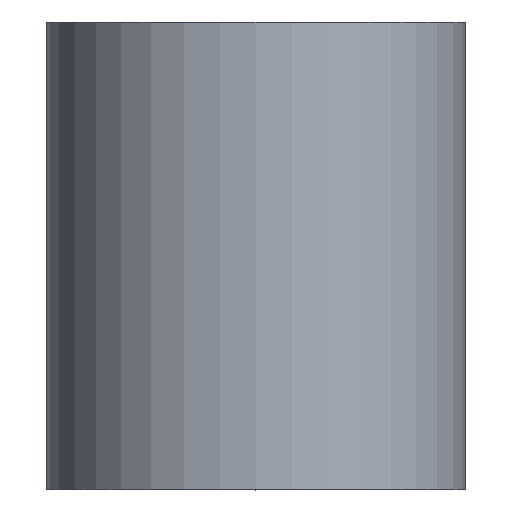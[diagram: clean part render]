
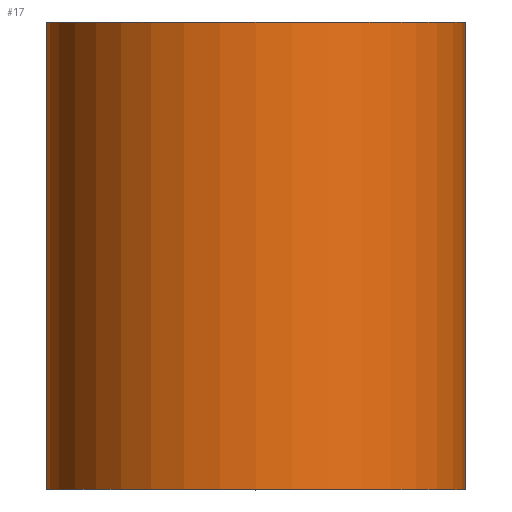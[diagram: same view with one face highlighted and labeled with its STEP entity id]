
A CAD part, top view. The second image highlights one B-rep face of the part: STEP entity #17.
In plain terms, the highlighted cylindrical face has radius 2.6 mm (diameter 5.2 mm), a full revolution.
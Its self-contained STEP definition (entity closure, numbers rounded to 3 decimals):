
#17 = ADVANCED_FACE('',(#18),#31,.T.);
#18 = FACE_BOUND('',#19,.T.);
#19 = EDGE_LOOP('',(#20,#54,#77,#104));
#20 = ORIENTED_EDGE('',*,*,#21,.F.);
#21 = EDGE_CURVE('',#22,#22,#24,.T.);
#22 = VERTEX_POINT('',#23);
#23 = CARTESIAN_POINT('',(2.6,-2.9,0.));
#24 = SURFACE_CURVE('',#25,(#30,#42),.PCURVE_S1.);
#25 = CIRCLE('',#26,2.6);
#26 = AXIS2_PLACEMENT_3D('',#27,#28,#29);
#27 = CARTESIAN_POINT('',(0.,-2.9,0.));
#28 = DIRECTION('',(0.,-1.,0.));
#29 = DIRECTION('',(1.,0.,0.));
#30 = PCURVE('',#31,#36);
#31 = CYLINDRICAL_SURFACE('',#32,2.6);
#32 = AXIS2_PLACEMENT_3D('',#33,#34,#35);
#33 = CARTESIAN_POINT('',(0.,2.9,0.));
#34 = DIRECTION('',(0.,-1.,0.));
#35 = DIRECTION('',(1.,0.,0.));
#36 = DEFINITIONAL_REPRESENTATION('',(#37),#41);
#37 = LINE('',#38,#39);
#38 = CARTESIAN_POINT('',(0.,5.8));
#39 = VECTOR('',#40,1.);
#40 = DIRECTION('',(1.,0.));
#41 = ( GEOMETRIC_REPRESENTATION_CONTEXT(2) 
PARAMETRIC_REPRESENTATION_CONTEXT() REPRESENTATION_CONTEXT('2D SPACE',''
  ) );
#42 = PCURVE('',#43,#48);
#43 = PLANE('',#44);
#44 = AXIS2_PLACEMENT_3D('',#45,#46,#47);
#45 = CARTESIAN_POINT('',(0.,-2.9,0.));
#46 = DIRECTION('',(0.,-1.,0.));
#47 = DIRECTION('',(1.,0.,0.));
#48 = DEFINITIONAL_REPRESENTATION('',(#49),#53);
#49 = CIRCLE('',#50,2.6);
#50 = AXIS2_PLACEMENT_2D('',#51,#52);
#51 = CARTESIAN_POINT('',(0.,0.));
#52 = DIRECTION('',(1.,0.));
#53 = ( GEOMETRIC_REPRESENTATION_CONTEXT(2) 
PARAMETRIC_REPRESENTATION_CONTEXT() REPRESENTATION_CONTEXT('2D SPACE',''
  ) );
#54 = ORIENTED_EDGE('',*,*,#55,.F.);
#55 = EDGE_CURVE('',#56,#22,#58,.T.);
#56 = VERTEX_POINT('',#57);
#57 = CARTESIAN_POINT('',(2.6,2.9,0.));
#58 = SEAM_CURVE('',#59,(#63,#70),.PCURVE_S1.);
#59 = LINE('',#60,#61);
#60 = CARTESIAN_POINT('',(2.6,2.9,0.));
#61 = VECTOR('',#62,1.);
#62 = DIRECTION('',(0.,-1.,0.));
#63 = PCURVE('',#31,#64);
#64 = DEFINITIONAL_REPRESENTATION('',(#65),#69);
#65 = LINE('',#66,#67);
#66 = CARTESIAN_POINT('',(6.283,-0.));
#67 = VECTOR('',#68,1.);
#68 = DIRECTION('',(0.,1.));
#69 = ( GEOMETRIC_REPRESENTATION_CONTEXT(2) 
PARAMETRIC_REPRESENTATION_CONTEXT() REPRESENTATION_CONTEXT('2D SPACE',''
  ) );
#70 = PCURVE('',#31,#71);
#71 = DEFINITIONAL_REPRESENTATION('',(#72),#76);
#72 = LINE('',#73,#74);
#73 = CARTESIAN_POINT('',(0.,-0.));
#74 = VECTOR('',#75,1.);
#75 = DIRECTION('',(0.,1.));
#76 = ( GEOMETRIC_REPRESENTATION_CONTEXT(2) 
PARAMETRIC_REPRESENTATION_CONTEXT() REPRESENTATION_CONTEXT('2D SPACE',''
  ) );
#77 = ORIENTED_EDGE('',*,*,#78,.T.);
#78 = EDGE_CURVE('',#56,#56,#79,.T.);
#79 = SURFACE_CURVE('',#80,(#85,#92),.PCURVE_S1.);
#80 = CIRCLE('',#81,2.6);
#81 = AXIS2_PLACEMENT_3D('',#82,#83,#84);
#82 = CARTESIAN_POINT('',(0.,2.9,0.));
#83 = DIRECTION('',(0.,-1.,0.));
#84 = DIRECTION('',(1.,0.,0.));
#85 = PCURVE('',#31,#86);
#86 = DEFINITIONAL_REPRESENTATION('',(#87),#91);
#87 = LINE('',#88,#89);
#88 = CARTESIAN_POINT('',(0.,0.));
#89 = VECTOR('',#90,1.);
#90 = DIRECTION('',(1.,0.));
#91 = ( GEOMETRIC_REPRESENTATION_CONTEXT(2) 
PARAMETRIC_REPRESENTATION_CONTEXT() REPRESENTATION_CONTEXT('2D SPACE',''
  ) );
#92 = PCURVE('',#93,#98);
#93 = PLANE('',#94);
#94 = AXIS2_PLACEMENT_3D('',#95,#96,#97);
#95 = CARTESIAN_POINT('',(0.,2.9,0.));
#96 = DIRECTION('',(0.,-1.,0.));
#97 = DIRECTION('',(1.,0.,0.));
#98 = DEFINITIONAL_REPRESENTATION('',(#99),#103);
#99 = CIRCLE('',#100,2.6);
#100 = AXIS2_PLACEMENT_2D('',#101,#102);
#101 = CARTESIAN_POINT('',(0.,0.));
#102 = DIRECTION('',(1.,0.));
#103 = ( GEOMETRIC_REPRESENTATION_CONTEXT(2) 
PARAMETRIC_REPRESENTATION_CONTEXT() REPRESENTATION_CONTEXT('2D SPACE',''
  ) );
#104 = ORIENTED_EDGE('',*,*,#55,.T.);
